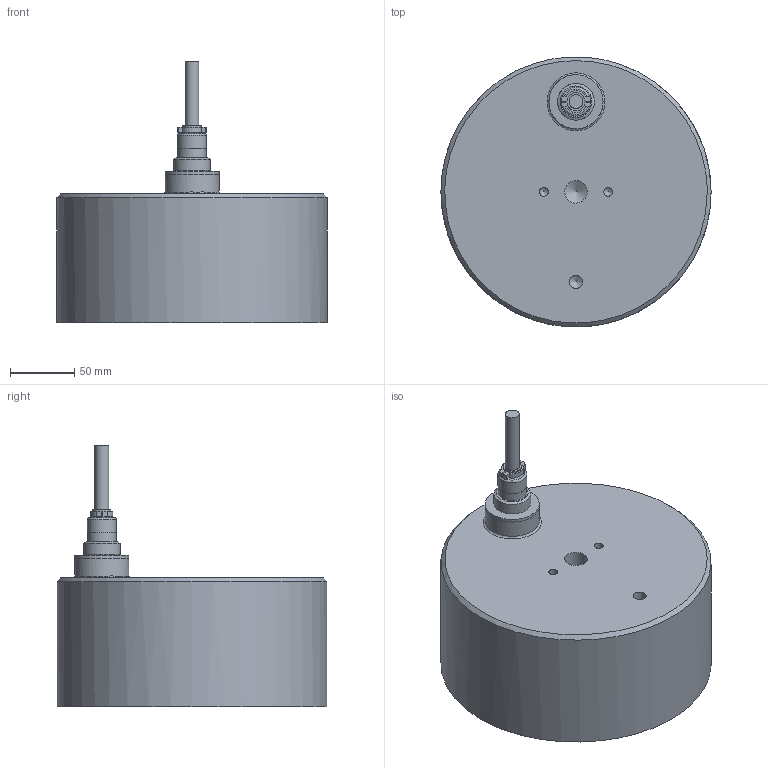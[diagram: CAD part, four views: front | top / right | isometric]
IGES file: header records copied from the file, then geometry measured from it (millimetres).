
Global section: file name: EMH-1-210Dx100H-V; native system: unknown; preprocessor: unknown; author: unknown; organization: unknown; date: 20231215.144114; units: millimetre
Bounding box: 210 x 209.66 x 203 mm (x, y, z)
Volume: 3488148.7 mm3; surface area: 158228.1 mm2
Topology: 8 solids, 8 shells, 131 faces, 282 edges, 185 vertices
Faces by surface type: bspline 131
